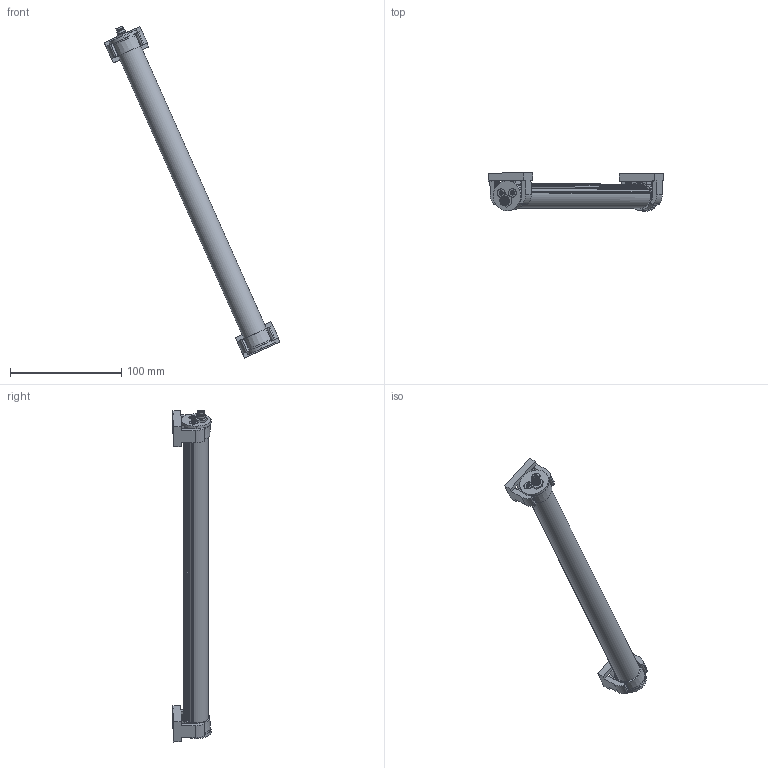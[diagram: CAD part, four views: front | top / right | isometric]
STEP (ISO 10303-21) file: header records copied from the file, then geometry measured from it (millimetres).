
FILE_DESCRIPTION(/* description */ (''),/* implementation_level */ '2;1');
FILE_NAME(/* name */ 'G:\Daten\Leuchten\06100 - LED ELN - ELN-RGBW\03 - CAD\Step-Dateien_Gesamt_Website\LED ELN-RGBW\sangel-led-eln-rgbw-280.stp',/* time_stamp */ '2023-07-04T11:05:21+02:00',/* author */ ('gzahn'),/* organization */ (''),/* preprocessor_version */ 'ST-DEVELOPER v19',/* originating_system */ 'Autodesk Inventor 2023',/* authorisation */ '');
FILE_SCHEMA (('AUTOMOTIVE_DESIGN { 1 0 10303 214 3 1 1 }'));
Length unit declared in the file: millimetre
Products named in the file (1): 1-000000-06628 - LED ELN-RGBW 280 PMMAd-M8-57
Bounding box: 157.99 x 34.26 x 298.14 mm (x, y, z)
Volume: 127171.9 mm3; surface area: 37155.9 mm2
Topology: 1 solids, 1 shells, 521 faces, 1462 edges, 929 vertices
Faces by surface type: plane 187, cylinder 169, cone 105, bspline 55, sphere 5
Full cylindrical faces by diameter (mm): 1 x5, 1.3 x4, 4.4 x2, 6.4 x2, 7.4 x2, 7.5 x4, 8 x1
Entity records: 21406 total; most frequent: CARTESIAN_POINT 7751, ORIENTED_EDGE 2914, DIRECTION 2627, EDGE_CURVE 1457, AXIS2_PLACEMENT_3D 1047, VERTEX_POINT 929, EDGE_LOOP 552, CIRCLE 552
